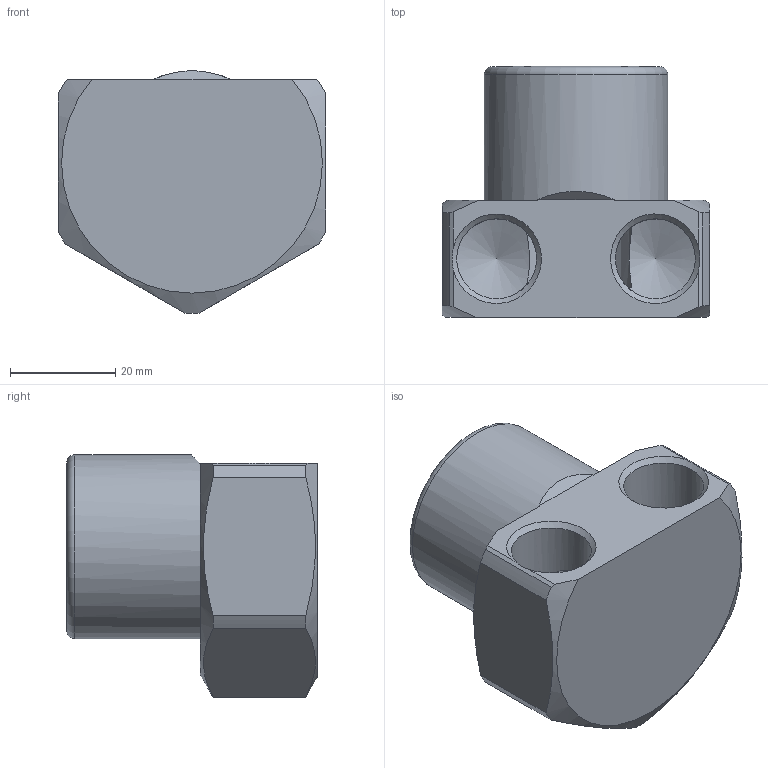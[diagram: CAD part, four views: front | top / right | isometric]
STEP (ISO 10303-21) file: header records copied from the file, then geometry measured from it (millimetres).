
FILE_DESCRIPTION(/* description */ (''),/* implementation_level */ '2;1');
FILE_NAME(/* name */ 'C:/Users/drich/Desktop/ET3438H v2.step',/* time_stamp */ '2019-11-18T13:38:28-06:00',/* author */ (''),/* organization */ (''),/* preprocessor_version */ 'ST-DEVELOPER v18',/* originating_system */ 'Autodesk Translation Framework v8.12.0.6',/* authorisation */ '');
FILE_SCHEMA (('AUTOMOTIVE_DESIGN { 1 0 10303 214 3 1 1 }'));
Length unit declared in the file: inch
Products named in the file (2): ET3438H; ET3438H_1
Assembly tree (1 placements, depth 2):
  ET3438H
    ET3438H_1
Bounding box: 50.8 x 47.62 x 46.02 mm (x, y, z)
Volume: 43273.8 mm3; surface area: 15086.7 mm2
Topology: 1 solids, 1 shells, 37 faces, 112 edges, 74 vertices
Faces by surface type: plane 15, cylinder 14, cone 7, torus 1
Full cylindrical faces by diameter (mm): 12.86 x1, 15.173 x2, 24.387 x1, 34.9 x1
Entity records: 1386 total; most frequent: CARTESIAN_POINT 337, ORIENTED_EDGE 220, DIRECTION 215, EDGE_CURVE 110, AXIS2_PLACEMENT_3D 89, VERTEX_POINT 74, CIRCLE 44, EDGE_LOOP 40
